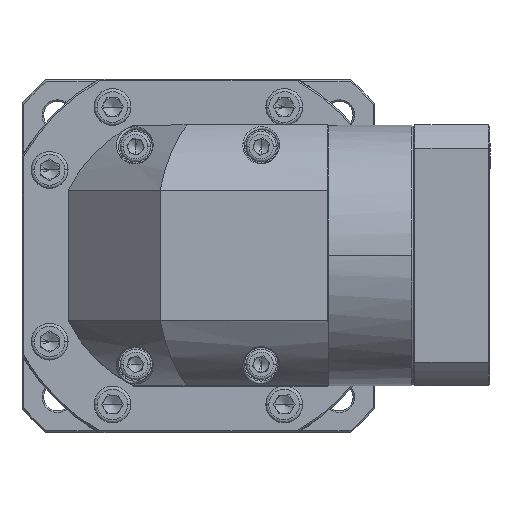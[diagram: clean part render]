
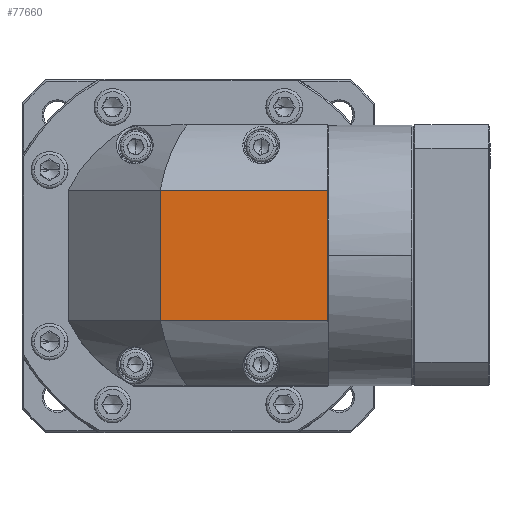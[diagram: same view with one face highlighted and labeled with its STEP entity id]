
A CAD part, top view. The second image highlights one B-rep face of the part: STEP entity #77660.
In plain terms, the highlighted planar face has unit normal (0, 0, 1).
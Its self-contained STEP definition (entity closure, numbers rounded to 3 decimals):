
#277 = CARTESIAN_POINT ( 'NONE',  ( 48.508, 95.29, 71.026 ) ) ;
#1190 = AXIS2_PLACEMENT_3D ( 'NONE', #77674, #19145, #66079 ) ;
#6916 = CARTESIAN_POINT ( 'NONE',  ( 103.008, 116.504, 71.026 ) ) ;
#9747 = EDGE_CURVE ( 'NONE', #51282, #86924, #140790, .T. ) ;
#18182 = VECTOR ( 'NONE', #32157, 1000. ) ;
#19145 = DIRECTION ( 'NONE',  ( 0., 0., 1. ) ) ;
#19991 = VERTEX_POINT ( 'NONE', #22552 ) ;
#22552 = CARTESIAN_POINT ( 'NONE',  ( 48.508, 74.077, 71.026 ) ) ;
#24458 = LINE ( 'NONE', #99172, #69126 ) ;
#26545 = CARTESIAN_POINT ( 'NONE',  ( 103.008, 74.077, 71.026 ) ) ;
#27101 = ORIENTED_EDGE ( 'NONE', *, *, #42851, .F. ) ;
#30661 = DIRECTION ( 'NONE',  ( 1., 0., 0. ) ) ;
#32157 = DIRECTION ( 'NONE',  ( -1., 0., 0. ) ) ;
#34309 = CARTESIAN_POINT ( 'NONE',  ( 103.008, 95.29, 71.026 ) ) ;
#42851 = EDGE_CURVE ( 'NONE', #57354, #86924, #24458, .T. ) ;
#45333 = ORIENTED_EDGE ( 'NONE', *, *, #55416, .F. ) ;
#51282 = VERTEX_POINT ( 'NONE', #26545 ) ;
#55416 = EDGE_CURVE ( 'NONE', #19991, #57354, #64087, .T. ) ;
#57354 = VERTEX_POINT ( 'NONE', #66303 ) ;
#62641 = CARTESIAN_POINT ( 'NONE',  ( 3.008, 74.077, 71.026 ) ) ;
#63394 = EDGE_LOOP ( 'NONE', ( #27101, #45333, #124980, #146681 ) ) ;
#64087 = LINE ( 'NONE', #277, #123104 ) ;
#66079 = DIRECTION ( 'NONE',  ( 1., 0., 0. ) ) ;
#66303 = CARTESIAN_POINT ( 'NONE',  ( 48.508, 116.504, 71.026 ) ) ;
#69126 = VECTOR ( 'NONE', #30661, 1000. ) ;
#72215 = FACE_OUTER_BOUND ( 'NONE', #63394, .T. ) ;
#77660 = ADVANCED_FACE ( 'NONE', ( #72215 ), #123158, .T. ) ;
#77674 = CARTESIAN_POINT ( 'NONE',  ( 61.008, 95.29, 71.026 ) ) ;
#86924 = VERTEX_POINT ( 'NONE', #6916 ) ;
#87966 = LINE ( 'NONE', #62641, #18182 ) ;
#89343 = DIRECTION ( 'NONE',  ( 0., 1., 0. ) ) ;
#99172 = CARTESIAN_POINT ( 'NONE',  ( 3.008, 116.504, 71.026 ) ) ;
#103364 = DIRECTION ( 'NONE',  ( 0., 1., 0. ) ) ;
#123104 = VECTOR ( 'NONE', #103364, 1000. ) ;
#123158 = PLANE ( 'NONE',  #1190 ) ;
#124980 = ORIENTED_EDGE ( 'NONE', *, *, #143247, .F. ) ;
#137221 = VECTOR ( 'NONE', #89343, 1000. ) ;
#140790 = LINE ( 'NONE', #34309, #137221 ) ;
#143247 = EDGE_CURVE ( 'NONE', #51282, #19991, #87966, .T. ) ;
#146681 = ORIENTED_EDGE ( 'NONE', *, *, #9747, .T. ) ;
